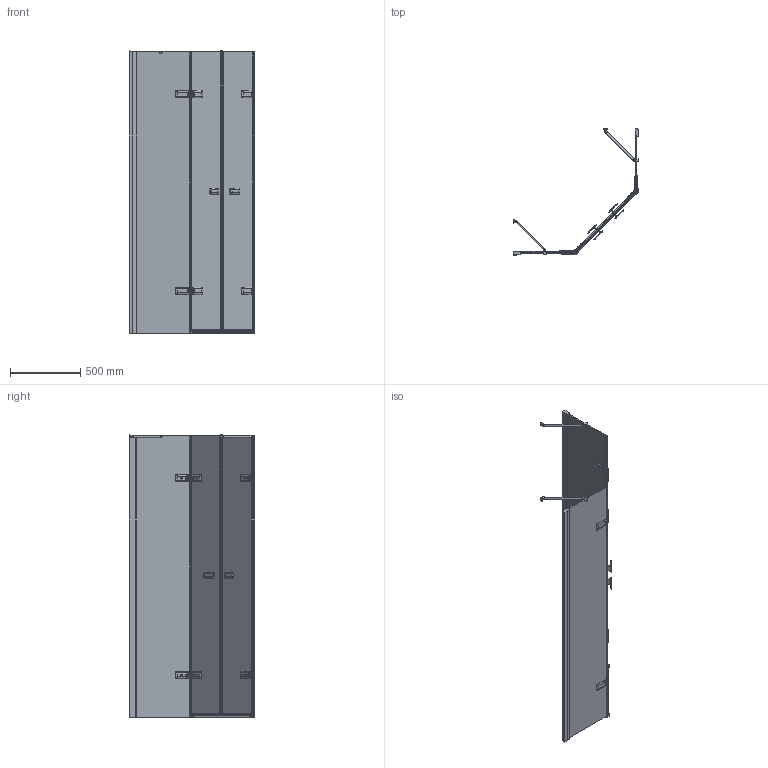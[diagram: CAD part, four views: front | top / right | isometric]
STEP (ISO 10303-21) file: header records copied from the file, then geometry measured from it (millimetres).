
FILE_DESCRIPTION(/* description */ (''),/* implementation_level */ '2;1');
FILE_NAME(/* name */ 'E:\Работа\Сергей\Душевые кабинки\! Работа\TREND GK-864FP\TREND GK-864FP (3D).stp',/* time_stamp */ '2017-08-30T21:48:32+03:00',/* author */ ('PC'),/* organization */ (''),/* preprocessor_version */ 'ST-DEVELOPER v15.2',/* originating_system */ 'Autodesk Inventor 2014',/* authorisation */ '');
FILE_SCHEMA (('AUTOMOTIVE_DESIGN { 1 0 10303 214 3 1 1 }'));
Products named in the file (1): TREND GK-864FP (3D)
Bounding box: 893.66 x 893.66 x 2009.49 mm (x, y, z)
Volume: 25949941.1 mm3; surface area: 6647124.4 mm2
Topology: 11 solids, 11 shells, 2355 faces, 6307 edges, 3922 vertices
Faces by surface type: plane 1383, cylinder 585, bspline 280, torus 52, cone 36, sphere 19
Full cylindrical faces by diameter (mm): 6 x4, 9 x16, 13 x4, 15 x2, 20 x4, 26 x2
Entity records: 107042 total; most frequent: CARTESIAN_POINT 47516, ORIENTED_EDGE 12272, DIRECTION 11454, EDGE_CURVE 6136, VERTEX_POINT 3892, AXIS2_PLACEMENT_3D 3866, LINE 3722, VECTOR 3722
